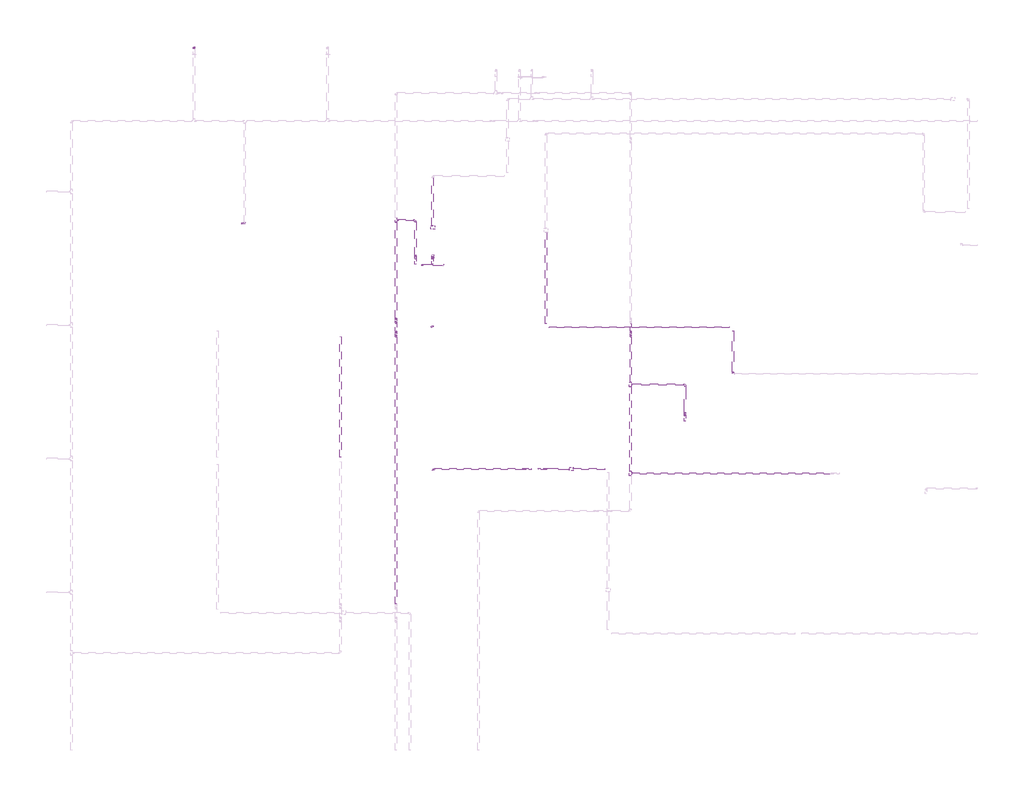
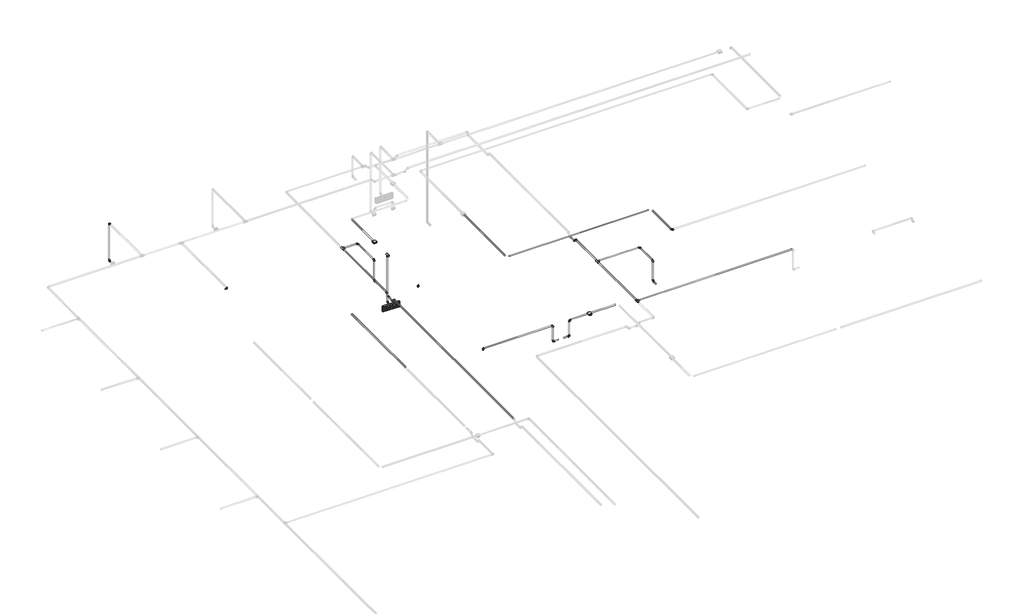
# One storey, part 38 of 40: 34 cable carrier segments, 27 cable carrier fittings, 3 alarms.
"""IFC4 building model written with IfcOpenShell, lengths in millimetres."""

from ifc_helpers import new_model, si_unit, point, frame, frame_2d, origin, place, context, project, spatial, circle_curve, trimmed, segment, composite_curve, outline, extrude, transform, mapped, element, save
from ifc_brep_helpers import plane_surface, cylinder_surface, advanced_brep
from components import alarm_4b7e8fd8, alarm_a2247946, cable_carrier_fitting_69f1a801, cable_carrier_fitting_8122f9af, cable_carrier_fitting_57fcd6e6, cable_carrier_fitting_51f7237e, cable_carrier_fitting_8fd13dfc

model = new_model("IFC4")

# Units and contexts
model_context = context("Model", 3, world=origin())
ifc_project = project(units=[si_unit("LENGTHUNIT", "METRE", prefix="MILLI")], contexts=[model_context])

# Site, building, storey
site = spatial("IfcSite", under=ifc_project)
building = spatial("IfcBuilding", under=site)
storey = spatial("IfcBuildingStorey", under=building, Name="1 этаж", Elevation=0.0)

# Alarms
placement = place(None, origin())
alarm_shape = alarm_4b7e8fd8(model_context)
element("IfcAlarm", 1, ObjectType="RBZ_Оповещатель_Световой_Рубеж_ОПОП1-R3(грань) : ОПОП 1-R3 \"Выход\"", at=placement, inside=storey, context=model_context, shape_type="MappedRepresentation", body=[
    mapped(alarm_shape, transform((10637.6759979, 18874.6370105, 2300.0), x_axis=(1.0, 0.0, 0.0), y_axis=(0.0, 0.0, 1.0), z_axis=(0.0, -1.0, 0.0))),
])
alarm_2_shape = alarm_a2247946(model_context)
element("IfcAlarm", 2, ObjectType="RBZ_ИзоляторШлейфа_Рубеж_ИЗ-1_прот.R3(плоскость) : ИЗ-1 прот.R3", at=placement, inside=storey, context=model_context, shape_type="MappedRepresentation", body=[
    mapped(alarm_2_shape, transform((10637.6759979, 19374.6370105, 3200.05), x_axis=(1.0, 0.0, 0.0), y_axis=(0.0, 1.0, 0.0), z_axis=(0.0, 0.0, 1.0))),
])
element("IfcAlarm", 3, ObjectType="RBZ_ИзоляторШлейфа_Рубеж_ИЗ-1_прот.R3(плоскость) : ИЗ-1 прот.R3", at=placement, inside=storey, context=model_context, shape_type="MappedRepresentation", body=[
    mapped(alarm_2_shape, transform((12527.6759979, 16084.6370105, 3200.05), x_axis=(1.0, 0.0, 0.0), y_axis=(0.0, 1.0, 0.0), z_axis=(0.0, 0.0, 1.0))),
])

# Cable carrier fittings
cable_carrier_fitting_shape = cable_carrier_fitting_69f1a801(model_context)
element("IfcCableCarrierFitting", 4, ObjectType="ADSK_Поворот_Минимальный размер : Неспецифицируемый", at=placement, inside=storey, context=model_context, shape_type="MappedRepresentation", body=[
    mapped(cable_carrier_fitting_shape, transform((14727.6759979, 17381.136913, 3189.2746228), x_axis=(0.0, -0.9999999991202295, 4.194688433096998e-05), y_axis=(1.0000000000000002, 0.0, 0.0), z_axis=(0.0, 4.194688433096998e-05, 0.9999999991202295))),
])
element("IfcCableCarrierFitting", 5, ObjectType="ADSK_Поворот_Минимальный размер : Неспецифицируемый", at=placement, inside=storey, context=model_context, shape_type="MappedRepresentation", body=[
    mapped(cable_carrier_fitting_shape, transform((11884.4029581, 16084.6370105, 2891.5753772), x_axis=(-1.0, 0.0, 0.0), y_axis=(0.0, 0.0, 1.0), z_axis=(0.0, 1.0, 0.0))),
])
element("IfcCableCarrierFitting", 6, ObjectType="ADSK_Поворот_Минимальный размер : Неспецифицируемый", at=placement, inside=storey, context=model_context, shape_type="MappedRepresentation", body=[
    mapped(cable_carrier_fitting_shape, transform((12171.8025693, 16084.6370105, 2891.5753772), x_axis=(1.0, 0.0, 0.0), y_axis=(0.0, 0.0, 1.0), z_axis=(0.0, -1.0, 0.0))),
])
element("IfcCableCarrierFitting", 7, ObjectType="ADSK_Поворот_Минимальный размер : Неспецифицируемый", at=placement, inside=storey, context=model_context, shape_type="MappedRepresentation", body=[
    mapped(cable_carrier_fitting_shape, transform((12171.8025693, 16084.6370105, 3189.3), x_axis=(0.0, 0.0, 1.0), y_axis=(1.0, 0.0, 0.0), z_axis=(0.0, 1.0, 0.0))),
])
element("IfcCableCarrierFitting", 8, ObjectType="ADSK_Поворот_Минимальный размер : Неспецифицируемый", at=placement, inside=storey, context=model_context, shape_type="MappedRepresentation", body=[
    mapped(cable_carrier_fitting_shape, transform((8077.6759979, 19426.2217133, 3187.0), x_axis=(1.0, 0.0, 0.0), y_axis=(0.0, 1.0, 0.0), z_axis=(0.0, 0.0, 1.0))),
])
element("IfcCableCarrierFitting", 9, ObjectType="ADSK_Поворот_Минимальный размер : Неспецифицируемый", at=placement, inside=storey, context=model_context, shape_type="MappedRepresentation", body=[
    mapped(cable_carrier_fitting_shape, transform((7387.6759979, 21828.8368161, 2488.0911237), x_axis=(0.0, 1.0, 0.0), y_axis=(0.0, 0.0, 1.0), z_axis=(1.0, 0.0, 0.0))),
])
element("IfcCableCarrierFitting", 10, ObjectType="ADSK_Поворот_Минимальный размер : Неспецифицируемый", at=placement, inside=storey, context=model_context, shape_type="MappedRepresentation", body=[
    mapped(cable_carrier_fitting_shape, transform((7387.6759979, 21828.8368161, 3187.0), x_axis=(0.0, 0.0, 1.0), y_axis=(0.0, -1.0, 0.0), z_axis=(1.0, 0.0, 0.0))),
])
element("IfcCableCarrierFitting", 11, ObjectType="ADSK_Поворот_Минимальный размер : Неспецифицируемый", at=placement, inside=storey, context=model_context, shape_type="MappedRepresentation", body=[
    mapped(cable_carrier_fitting_shape, transform((10402.6759979, 18971.8368161, 2797.4861504), x_axis=(0.0, 1.0, 0.0), y_axis=(0.0, 0.0, 1.0), z_axis=(1.0, 0.0, 0.0))),
])
element("IfcCableCarrierFitting", 12, ObjectType="ADSK_Поворот_Минимальный размер : Неспецифицируемый", at=placement, inside=storey, context=model_context, shape_type="MappedRepresentation", body=[
    mapped(cable_carrier_fitting_shape, transform((10402.6759979, 18971.8368161, 3180.0), x_axis=(0.0, 0.0, 1.0), y_axis=(0.0, 1.0, 0.0), z_axis=(-1.0, 0.0, 0.0))),
])
element("IfcCableCarrierFitting", 13, ObjectType="ADSK_Поворот_Минимальный размер : Неспецифицируемый", at=placement, inside=storey, context=model_context, shape_type="MappedRepresentation", body=[
    mapped(cable_carrier_fitting_shape, transform((10402.6759979, 19474.6370105, 3180.0), x_axis=(0.0, 1.0, 0.0), y_axis=(-1.0, 0.0, 0.0), z_axis=(0.0, 0.0, 1.0))),
])
element("IfcCableCarrierFitting", 14, ObjectType="ADSK_Поворот_Минимальный размер : Неспецифицируемый", at=placement, inside=storey, context=model_context, shape_type="MappedRepresentation", body=[
    mapped(cable_carrier_fitting_shape, transform((14077.6759979, 16831.8368161, 2797.4861504), x_axis=(0.0, 1.0, 0.0), y_axis=(0.0, 0.0, 1.0), z_axis=(1.0, 0.0, 0.0))),
])
element("IfcCableCarrierFitting", 15, ObjectType="ADSK_Поворот_Минимальный размер : Неспецифицируемый", at=placement, inside=storey, context=model_context, shape_type="MappedRepresentation", body=[
    mapped(cable_carrier_fitting_shape, transform((14077.6759979, 16831.8368161, 3180.0), x_axis=(0.0, 0.0, 1.0), y_axis=(0.0, 1.0, 0.0), z_axis=(-1.0, 0.0, 0.0))),
])
element("IfcCableCarrierFitting", 16, ObjectType="ADSK_Поворот_Минимальный размер : Неспецифицируемый", at=placement, inside=storey, context=model_context, shape_type="MappedRepresentation", body=[
    mapped(cable_carrier_fitting_shape, transform((14077.6759979, 17234.6370105, 3180.0), x_axis=(0.0, 1.0, 0.0), y_axis=(-1.0, 0.0, 0.0), z_axis=(0.0, 0.0, 1.0))),
])
element("IfcCableCarrierFitting", 17, ObjectType="ADSK_Поворот_Минимальный размер : Неспецифицируемый", at=placement, inside=storey, context=model_context, shape_type="MappedRepresentation", body=[
    mapped(cable_carrier_fitting_shape, transform((10637.6759979, 18971.8368161, 2300.0), x_axis=(0.0, 1.0, 0.0), y_axis=(0.0, 0.0, 1.0), z_axis=(1.0, 0.0, 0.0))),
])
element("IfcCableCarrierFitting", 18, ObjectType="ADSK_Поворот_Минимальный размер : Неспецифицируемый", at=placement, inside=storey, context=model_context, shape_type="MappedRepresentation", body=[
    mapped(cable_carrier_fitting_shape, transform((10642.6759979, 16084.6370105, 3189.2491248), x_axis=(-0.9999999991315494, 0.0, -4.1676149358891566e-05), y_axis=(0.0, -1.0000000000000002, 0.0), z_axis=(-4.1676149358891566e-05, 0.0, 0.9999999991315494))),
])
cable_carrier_fitting_2_shape = cable_carrier_fitting_8122f9af(model_context)
element("IfcCableCarrierFitting", 19, ObjectType="ADSK_Поворот_Минимальный размер : Неспецифицируемый", at=placement, inside=storey, context=model_context, shape_type="MappedRepresentation", body=[
    mapped(cable_carrier_fitting_2_shape, transform((10136.5137184, 17898.0647393, 3180.0), x_axis=(0.0, 1.0, 0.0), y_axis=(0.0, 0.0, -1.0), z_axis=(-1.0, 0.0, 0.0))),
])
element("IfcCableCarrierFitting", 20, ObjectType="ADSK_Поворот_Минимальный размер : Неспецифицируемый", at=placement, inside=storey, context=model_context, shape_type="MappedRepresentation", body=[
    mapped(cable_carrier_fitting_2_shape, transform((10136.5137184, 17948.0647393, 3130.0), x_axis=(0.0, 0.7071067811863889, -0.7071067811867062), y_axis=(0.0, 0.7071067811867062, 0.7071067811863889), z_axis=(1.0, 0.0, 0.0))),
])
element("IfcCableCarrierFitting", 21, ObjectType="ADSK_Поворот_Минимальный размер : Неспецифицируемый", at=placement, inside=storey, context=model_context, shape_type="MappedRepresentation", body=[
    mapped(cable_carrier_fitting_2_shape, transform((10136.5137184, 18081.2092818, 3130.0), x_axis=(0.0, 1.0, 0.0), y_axis=(0.0, 0.0, 1.0), z_axis=(1.0, 0.0, 0.0))),
])
element("IfcCableCarrierFitting", 22, ObjectType="ADSK_Поворот_Минимальный размер : Неспецифицируемый", at=placement, inside=storey, context=model_context, shape_type="MappedRepresentation", body=[
    mapped(cable_carrier_fitting_2_shape, transform((10136.5137184, 18131.2092818, 3180.0), x_axis=(0.0, 0.7071067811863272, 0.7071067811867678), y_axis=(0.0, 0.7071067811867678, -0.7071067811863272), z_axis=(-1.0, 0.0, 0.0))),
])
element("IfcCableCarrierFitting", 23, ObjectType="ADSK_Поворот_Минимальный размер : Неспецифицируемый", at=placement, inside=storey, context=model_context, shape_type="MappedRepresentation", body=[
    mapped(cable_carrier_fitting_2_shape, transform((13336.5137184, 17948.0647393, 3130.0), x_axis=(0.0, -1.0, 0.0), y_axis=(0.0, 0.0, 1.0), z_axis=(-1.0, 0.0, 0.0))),
])
element("IfcCableCarrierFitting", 24, ObjectType="ADSK_Поворот_Минимальный размер : Неспецифицируемый", at=placement, inside=storey, context=model_context, shape_type="MappedRepresentation", body=[
    mapped(cable_carrier_fitting_2_shape, transform((13336.5137184, 17898.0647393, 3180.0), x_axis=(0.0, -0.7071067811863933, 0.7071067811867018), y_axis=(0.0, -0.7071067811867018, -0.7071067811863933), z_axis=(1.0, 0.0, 0.0))),
])
cable_carrier_fitting_3_shape = cable_carrier_fitting_57fcd6e6(model_context)
element("IfcCableCarrierFitting", 25, ObjectType="ADSK_Поворот_Минимальный размер : Неспецифицируемый", at=placement, inside=storey, context=model_context, shape_type="MappedRepresentation", body=[
    mapped(cable_carrier_fitting_3_shape, transform((11884.4029581, 16084.6370105, 3189.3008752), x_axis=(0.0, 0.0, 1.0), y_axis=(-1.0, 0.0, 0.0), z_axis=(0.0, -1.0, 0.0))),
])
cable_carrier_fitting_4_shape = cable_carrier_fitting_51f7237e(model_context)
element("IfcCableCarrierFitting", 26, ObjectType="ADSK_Поворот_Минимальный размер : Неспецифицируемый", at=placement, inside=storey, context=model_context, shape_type="MappedRepresentation", body=[
    mapped(cable_carrier_fitting_4_shape, transform((10637.6759704, 18014.6370105, 3189.2999466), x_axis=(0.9999999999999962, 0.0, 8.705022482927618e-08), y_axis=(0.0, 0.9999999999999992, 4.0061227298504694e-08), z_axis=(-8.705022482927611e-08, -4.0061227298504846e-08, 0.9999999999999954))),
])
cable_carrier_fitting_5_shape = cable_carrier_fitting_8fd13dfc(model_context)
element("IfcCableCarrierFitting", 27, ObjectType="ADSK_Тройник : ПВХ", at=placement, inside=storey, context=model_context, shape_type="MappedRepresentation", body=[
    mapped(cable_carrier_fitting_5_shape, transform((10136.5137184, 19474.6370105, 3180.0), x_axis=(0.0, 1.0, 0.0), y_axis=(-1.0, 0.0, 0.0), z_axis=(0.0, 0.0, 1.0))),
])
element("IfcCableCarrierFitting", 28, ObjectType="ADSK_Тройник : ПВХ", at=placement, inside=storey, context=model_context, shape_type="MappedRepresentation", body=[
    mapped(cable_carrier_fitting_5_shape, transform((13329.9487472, 17234.6370105, 3180.0), x_axis=(0.0, 1.0, 0.0), y_axis=(-1.0, 0.0, 0.0), z_axis=(0.0, 0.0, 1.0))),
])
element("IfcCableCarrierFitting", 29, ObjectType="ADSK_Тройник : ПВХ", at=placement, inside=storey, context=model_context, shape_type="MappedRepresentation", body=[
    mapped(cable_carrier_fitting_5_shape, transform((13329.9487472, 16024.6370105, 3180.0), x_axis=(0.0, 1.0, 0.0), y_axis=(-1.0, 0.0, 0.0), z_axis=(0.0, 0.0, 1.0))),
])
element("IfcCableCarrierFitting", 30, ObjectType="ADSK_Тройник : ПВХ", at=placement, inside=storey, context=model_context, shape_type="MappedRepresentation", body=[
    mapped(cable_carrier_fitting_5_shape, transform((10637.6759901, 18971.8368161, 3189.2999849), x_axis=(2.0598476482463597e-08, 0.999999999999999, 4.006120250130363e-08), y_axis=(0.0, -4.006120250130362e-08, 0.9999999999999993), z_axis=(0.9999999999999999, -2.0598476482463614e-08, 0.0))),
])

# Cable carrier segments
element("IfcCableCarrierSegment", 31, ObjectType="Гофрированная труба", at=placement, inside=storey, context=model_context, shape_type="SweptSolid", body=[
    extrude(outline(composite_curve([segment(trimmed(circle_curve(frame_2d((0.0, -10.0)), 10.0), [point((0.0, -20.0))], [point((-10.0, -10.0))], False, "CARTESIAN"), True, "CONTINUOUS"), segment(trimmed(circle_curve(frame_2d((0.0, -10.0)), 10.0), [point((-10.0, -10.0))], [point((0.0, 0.0))], False, "CARTESIAN"), True, "CONTINUOUS"), segment(trimmed(circle_curve(frame_2d((0.0, -10.0)), 10.0), [point((0.0, 0.0))], [point((10.0, -10.0))], False, "CARTESIAN"), True, "CONTINUOUS"), segment(trimmed(circle_curve(frame_2d((0.0, -10.0)), 10.0), [point((10.0, -10.0))], [point((0.0, -20.0))], False, "CARTESIAN"), True, "CONTINUOUS")], self_intersect=False)), frame((14717.6759979, 17968.1370105, 3189.25), z_axis=(0.0, -0.9999999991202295, 4.1946884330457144e-05), x_axis=(0.0, 4.1946884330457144e-05, 0.9999999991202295)), (0.0, 0.0, 1.0), 566.0000981),
])
element("IfcCableCarrierSegment", 32, ObjectType="Гофрированная труба", at=placement, inside=storey, context=model_context, shape_type="SweptSolid", body=[
    extrude(outline(composite_curve([segment(trimmed(circle_curve(frame_2d((18014.6370105, 3189.25)), 10.0), [point((18024.6370105, 3189.25))], [point((18014.6370105, 3179.25))], False, "CARTESIAN"), True, "CONTINUOUS"), segment(trimmed(circle_curve(frame_2d((18014.6370105, 3189.25)), 10.0), [point((18014.6370105, 3179.25))], [point((18004.6370105, 3189.25))], False, "CARTESIAN"), True, "CONTINUOUS"), segment(trimmed(circle_curve(frame_2d((18014.6370105, 3189.25)), 10.0), [point((18004.6370105, 3189.25))], [point((18014.6370105, 3199.25))], False, "CARTESIAN"), True, "CONTINUOUS"), segment(trimmed(circle_curve(frame_2d((18014.6370105, 3189.25)), 10.0), [point((18014.6370105, 3199.25))], [point((18024.6370105, 3189.25))], False, "CARTESIAN"), True, "CONTINUOUS")], self_intersect=False)), frame((12228.6974646, 0.0, 0.0), z_axis=(1.0, 0.0, 0.0), x_axis=(0.0, 1.0, 0.0)), (0.0, 0.0, 1.0), 2452.4785332),
])
element("IfcCableCarrierSegment", 33, ObjectType="Гофрированная труба", at=placement, inside=storey, context=model_context, shape_type="SweptSolid", body=[
    extrude(outline(composite_curve([segment(trimmed(circle_curve(frame_2d((3189.25, 12182.1974646)), 10.0), [point((3189.25, 12172.1974646))], [point((3179.25, 12182.1974646))], False, "CARTESIAN"), True, "CONTINUOUS"), segment(trimmed(circle_curve(frame_2d((3189.25, 12182.1974646)), 10.0), [point((3179.25, 12182.1974646))], [point((3189.25, 12192.1974646))], False, "CARTESIAN"), True, "CONTINUOUS"), segment(trimmed(circle_curve(frame_2d((3189.25, 12182.1974646)), 10.0), [point((3189.25, 12192.1974646))], [point((3199.25, 12182.1974646))], False, "CARTESIAN"), True, "CONTINUOUS"), segment(trimmed(circle_curve(frame_2d((3189.25, 12182.1974646)), 10.0), [point((3199.25, 12182.1974646))], [point((3189.25, 12172.1974646))], False, "CARTESIAN"), True, "CONTINUOUS")], self_intersect=False)), frame((0.0, 18061.1370105, 0.0), z_axis=(0.0, 1.0, 0.0), x_axis=(0.0, 0.0, 1.0)), (0.0, 0.0, 1.0), 1247.5),
])
element("IfcCableCarrierSegment", 34, ObjectType="Гофрированная труба", at=placement, inside=storey, context=model_context, shape_type="SweptSolid", body=[
    extrude(outline(composite_curve([segment(trimmed(circle_curve(frame_2d((0.0, 10.0)), 10.0), [point((-10.0, 10.0))], [point((0.0, 20.0))], False, "CARTESIAN"), True, "CONTINUOUS"), segment(trimmed(circle_curve(frame_2d((0.0, 10.0)), 10.0), [point((0.0, 20.0))], [point((10.0, 10.0))], False, "CARTESIAN"), True, "CONTINUOUS"), segment(trimmed(circle_curve(frame_2d((0.0, 10.0)), 10.0), [point((10.0, 10.0))], [point((0.0, 0.0))], False, "CARTESIAN"), True, "CONTINUOUS"), segment(trimmed(circle_curve(frame_2d((0.0, 10.0)), 10.0), [point((0.0, 0.0))], [point((-10.0, 10.0))], False, "CARTESIAN"), True, "CONTINUOUS")], self_intersect=False)), frame((10663.6764146, 16084.6370105, 3179.25), z_axis=(0.9999999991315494, 0.0, 4.167614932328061e-05), x_axis=(0.0, 1.0, 0.0)), (0.0, 0.0, 1.0), 1199.7261277),
])
element("IfcCableCarrierSegment", 35, ObjectType="Гофрированная труба", at=placement, inside=storey, context=model_context, shape_type="SweptSolid", body=[
    extrude(outline(composite_curve([segment(trimmed(circle_curve(frame_2d((16084.6370105, 2891.5753772)), 10.0), [point((16094.6370105, 2891.5753772))], [point((16084.6370105, 2881.5753772))], False, "CARTESIAN"), True, "CONTINUOUS"), segment(trimmed(circle_curve(frame_2d((16084.6370105, 2891.5753772)), 10.0), [point((16084.6370105, 2881.5753772))], [point((16074.6370105, 2891.5753772))], False, "CARTESIAN"), True, "CONTINUOUS"), segment(trimmed(circle_curve(frame_2d((16084.6370105, 2891.5753772)), 10.0), [point((16074.6370105, 2891.5753772))], [point((16084.6370105, 2901.5753772))], False, "CARTESIAN"), True, "CONTINUOUS"), segment(trimmed(circle_curve(frame_2d((16084.6370105, 2891.5753772)), 10.0), [point((16084.6370105, 2901.5753772))], [point((16094.6370105, 2891.5753772))], False, "CARTESIAN"), True, "CONTINUOUS")], self_intersect=False)), frame((11905.4029581, 0.0, 0.0), z_axis=(1.0, 0.0, 0.0), x_axis=(0.0, 1.0, 0.0)), (0.0, 0.0, 1.0), 76.1998056),
])
element("IfcCableCarrierSegment", 36, ObjectType="Гофрированная труба", at=placement, inside=storey, context=model_context, shape_type="SweptSolid", body=[
    extrude(outline(composite_curve([segment(trimmed(circle_curve(frame_2d((11884.4029581, 16084.6370105)), 10.0), [point((11874.4029581, 16084.6370105))], [point((11884.4029581, 16094.6370105))], False, "CARTESIAN"), True, "CONTINUOUS"), segment(trimmed(circle_curve(frame_2d((11884.4029581, 16084.6370105)), 10.0), [point((11884.4029581, 16094.6370105))], [point((11894.4029581, 16084.6370105))], False, "CARTESIAN"), True, "CONTINUOUS"), segment(trimmed(circle_curve(frame_2d((11884.4029581, 16084.6370105)), 10.0), [point((11894.4029581, 16084.6370105))], [point((11884.4029581, 16074.6370105))], False, "CARTESIAN"), True, "CONTINUOUS"), segment(trimmed(circle_curve(frame_2d((11884.4029581, 16084.6370105)), 10.0), [point((11884.4029581, 16074.6370105))], [point((11874.4029581, 16084.6370105))], False, "CARTESIAN"), True, "CONTINUOUS")], self_intersect=False)), frame((0.0, 0.0, 2912.5753772), z_axis=(0.0, 0.0, 1.0), x_axis=(1.0, 0.0, 0.0)), (0.0, 0.0, 1.0), 255.7246645),
])
element("IfcCableCarrierSegment", 37, ObjectType="Гофрированная труба", at=placement, inside=storey, context=model_context, shape_type="SweptSolid", body=[
    extrude(outline(composite_curve([segment(trimmed(circle_curve(frame_2d((16084.6370105, 3189.3)), 10.0), [point((16094.6370105, 3189.3))], [point((16084.6370105, 3179.3))], False, "CARTESIAN"), True, "CONTINUOUS"), segment(trimmed(circle_curve(frame_2d((16084.6370105, 3189.3)), 10.0), [point((16084.6370105, 3179.3))], [point((16074.6370105, 3189.3))], False, "CARTESIAN"), True, "CONTINUOUS"), segment(trimmed(circle_curve(frame_2d((16084.6370105, 3189.3)), 10.0), [point((16074.6370105, 3189.3))], [point((16084.6370105, 3199.3))], False, "CARTESIAN"), True, "CONTINUOUS"), segment(trimmed(circle_curve(frame_2d((16084.6370105, 3189.3)), 10.0), [point((16084.6370105, 3199.3))], [point((16094.6370105, 3189.3))], False, "CARTESIAN"), True, "CONTINUOUS")], self_intersect=False)), frame((12192.8025693, 0.0, 0.0), z_axis=(1.0, 0.0, 0.0), x_axis=(0.0, 1.0, 0.0)), (0.0, 0.0, 1.0), 308.8734286),
])
element("IfcCableCarrierSegment", 38, ObjectType="Гофрированная труба", at=placement, inside=storey, context=model_context, shape_type="SweptSolid", body=[
    extrude(outline(composite_curve([segment(trimmed(circle_curve(frame_2d((16084.6370105, 2891.5753772)), 10.0), [point((16074.6370105, 2891.5753772))], [point((16084.6370105, 2901.5753772))], False, "CARTESIAN"), True, "CONTINUOUS"), segment(trimmed(circle_curve(frame_2d((16084.6370105, 2891.5753772)), 10.0), [point((16084.6370105, 2901.5753772))], [point((16094.6370105, 2891.5753772))], False, "CARTESIAN"), True, "CONTINUOUS"), segment(trimmed(circle_curve(frame_2d((16084.6370105, 2891.5753772)), 10.0), [point((16094.6370105, 2891.5753772))], [point((16084.6370105, 2881.5753772))], False, "CARTESIAN"), True, "CONTINUOUS"), segment(trimmed(circle_curve(frame_2d((16084.6370105, 2891.5753772)), 10.0), [point((16084.6370105, 2881.5753772))], [point((16074.6370105, 2891.5753772))], False, "CARTESIAN"), True, "CONTINUOUS")], self_intersect=False)), frame((12074.6027637, 0.0, 0.0), z_axis=(1.0, 0.0, 0.0), x_axis=(0.0, 1.0, 0.0)), (0.0, 0.0, 1.0), 76.1998056),
])
element("IfcCableCarrierSegment", 39, ObjectType="Гофрированная труба", at=placement, inside=storey, context=model_context, shape_type="SweptSolid", body=[
    extrude(outline(composite_curve([segment(trimmed(circle_curve(frame_2d((12171.8025693, 16084.6370105)), 10.0), [point((12161.8025693, 16084.6370105))], [point((12171.8025693, 16094.6370105))], False, "CARTESIAN"), True, "CONTINUOUS"), segment(trimmed(circle_curve(frame_2d((12171.8025693, 16084.6370105)), 10.0), [point((12171.8025693, 16094.6370105))], [point((12181.8025693, 16084.6370105))], False, "CARTESIAN"), True, "CONTINUOUS"), segment(trimmed(circle_curve(frame_2d((12171.8025693, 16084.6370105)), 10.0), [point((12181.8025693, 16084.6370105))], [point((12171.8025693, 16074.6370105))], False, "CARTESIAN"), True, "CONTINUOUS"), segment(trimmed(circle_curve(frame_2d((12171.8025693, 16084.6370105)), 10.0), [point((12171.8025693, 16074.6370105))], [point((12161.8025693, 16084.6370105))], False, "CARTESIAN"), True, "CONTINUOUS")], self_intersect=False)), frame((0.0, 0.0, 2912.5753772), z_axis=(0.0, 0.0, 1.0), x_axis=(1.0, 0.0, 0.0)), (0.0, 0.0, 1.0), 255.7246228),
])
element("IfcCableCarrierSegment", 40, ObjectType="Гофрированная труба", at=placement, inside=storey, context=model_context, shape_type="SweptSolid", body=[
    extrude(outline(composite_curve([segment(trimmed(circle_curve(frame_2d((16084.6370105, 3189.3)), 10.0), [point((16094.6370105, 3189.3))], [point((16084.6370105, 3179.3))], False, "CARTESIAN"), True, "CONTINUOUS"), segment(trimmed(circle_curve(frame_2d((16084.6370105, 3189.3)), 10.0), [point((16084.6370105, 3179.3))], [point((16074.6370105, 3189.3))], False, "CARTESIAN"), True, "CONTINUOUS"), segment(trimmed(circle_curve(frame_2d((16084.6370105, 3189.3)), 10.0), [point((16074.6370105, 3189.3))], [point((16084.6370105, 3199.3))], False, "CARTESIAN"), True, "CONTINUOUS"), segment(trimmed(circle_curve(frame_2d((16084.6370105, 3189.3)), 10.0), [point((16084.6370105, 3199.3))], [point((16094.6370105, 3189.3))], False, "CARTESIAN"), True, "CONTINUOUS")], self_intersect=False)), frame((12553.6759979, 0.0, 0.0), z_axis=(1.0, 0.0, 0.0), x_axis=(0.0, 1.0, 0.0)), (0.0, 0.0, 1.0), 427.5),
])
element("IfcCableCarrierSegment", 41, ObjectType="Гофрированная труба", at=placement, inside=storey, context=model_context, shape_type="SweptSolid", body=[
    extrude(outline(composite_curve([segment(trimmed(circle_curve(frame_2d((0.0, 10.0)), 10.0), [point((0.0, 20.0))], [point((10.0, 10.0))], False, "CARTESIAN"), True, "CONTINUOUS"), segment(trimmed(circle_curve(frame_2d((0.0, 10.0)), 10.0), [point((10.0, 10.0))], [point((0.0, 0.0))], False, "CARTESIAN"), True, "CONTINUOUS"), segment(trimmed(circle_curve(frame_2d((0.0, 10.0)), 10.0), [point((0.0, 0.0))], [point((-10.0, 10.0))], False, "CARTESIAN"), True, "CONTINUOUS"), segment(trimmed(circle_curve(frame_2d((0.0, 10.0)), 10.0), [point((-10.0, 10.0))], [point((0.0, 20.0))], False, "CARTESIAN"), True, "CONTINUOUS")], self_intersect=False)), frame((10627.6759979, 19400.6370098, 3189.3), z_axis=(-6.90443661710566e-08, 0.9999999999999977, 0.0), x_axis=(0.0, 0.0, 1.0)), (0.0, 0.0, 1.0), 652.9999988),
])
element("IfcCableCarrierSegment", 42, ObjectType="Гофрированная труба", at=placement, inside=storey, context=model_context, shape_type="SweptSolid", body=[
    extrude(outline(composite_curve([segment(trimmed(circle_curve(frame_2d((3187.0, 9382.6759979)), 10.0), [point((3187.0, 9392.6759979))], [point((3197.0, 9382.6759979))], False, "CARTESIAN"), True, "CONTINUOUS"), segment(trimmed(circle_curve(frame_2d((3187.0, 9382.6759979)), 10.0), [point((3197.0, 9382.6759979))], [point((3187.0, 9372.6759979))], False, "CARTESIAN"), True, "CONTINUOUS"), segment(trimmed(circle_curve(frame_2d((3187.0, 9382.6759979)), 10.0), [point((3187.0, 9372.6759979))], [point((3177.0, 9382.6759979))], False, "CARTESIAN"), True, "CONTINUOUS"), segment(trimmed(circle_curve(frame_2d((3187.0, 9382.6759979)), 10.0), [point((3177.0, 9382.6759979))], [point((3187.0, 9392.6759979))], False, "CARTESIAN"), True, "CONTINUOUS")], self_intersect=False)), frame((0.0, 16247.0987933, 0.0), z_axis=(0.0, 1.0, 0.0), x_axis=(0.0, 0.0, 1.0)), (0.0, 0.0, 1.0), 1635.0382172),
])
element("IfcCableCarrierSegment", 43, ObjectType="Гофрированная труба", at=placement, inside=storey, context=model_context, shape_type="SweptSolid", body=[
    extrude(outline(composite_curve([segment(trimmed(circle_curve(frame_2d((19426.2217133, 3187.0)), 10.0), [point((19416.2217133, 3187.0))], [point((19426.2217133, 3197.0))], False, "CARTESIAN"), True, "CONTINUOUS"), segment(trimmed(circle_curve(frame_2d((19426.2217133, 3187.0)), 10.0), [point((19426.2217133, 3197.0))], [point((19436.2217133, 3187.0))], False, "CARTESIAN"), True, "CONTINUOUS"), segment(trimmed(circle_curve(frame_2d((19426.2217133, 3187.0)), 10.0), [point((19436.2217133, 3187.0))], [point((19426.2217133, 3177.0))], False, "CARTESIAN"), True, "CONTINUOUS"), segment(trimmed(circle_curve(frame_2d((19426.2217133, 3187.0)), 10.0), [point((19426.2217133, 3177.0))], [point((19416.2217133, 3187.0))], False, "CARTESIAN"), True, "CONTINUOUS")], self_intersect=False)), frame((8040.1377807, 0.0, 0.0), z_axis=(1.0, 0.0, 0.0), x_axis=(0.0, 1.0, 0.0)), (0.0, 0.0, 1.0), 16.5382172),
])
element("IfcCableCarrierSegment", 44, ObjectType="Гофрированная труба", at=placement, inside=storey, context=model_context, shape_type="SweptSolid", body=[
    extrude(outline(composite_curve([segment(trimmed(circle_curve(frame_2d((7387.6759979, 21828.8368161)), 10.0), [point((7377.6759979, 21828.8368161))], [point((7387.6759979, 21838.8368161))], False, "CARTESIAN"), True, "CONTINUOUS"), segment(trimmed(circle_curve(frame_2d((7387.6759979, 21828.8368161)), 10.0), [point((7387.6759979, 21838.8368161))], [point((7397.6759979, 21828.8368161))], False, "CARTESIAN"), True, "CONTINUOUS"), segment(trimmed(circle_curve(frame_2d((7387.6759979, 21828.8368161)), 10.0), [point((7397.6759979, 21828.8368161))], [point((7387.6759979, 21818.8368161))], False, "CARTESIAN"), True, "CONTINUOUS"), segment(trimmed(circle_curve(frame_2d((7387.6759979, 21828.8368161)), 10.0), [point((7387.6759979, 21818.8368161))], [point((7377.6759979, 21828.8368161))], False, "CARTESIAN"), True, "CONTINUOUS")], self_intersect=False)), frame((0.0, 0.0, 2509.0911237), z_axis=(0.0, 0.0, 1.0), x_axis=(1.0, 0.0, 0.0)), (0.0, 0.0, 1.0), 656.9088763),
])
element("IfcCableCarrierSegment", 45, ObjectType="Гофрированная труба", at=placement, inside=storey, context=model_context, shape_type="SweptSolid", body=[
    extrude(outline(composite_curve([segment(trimmed(circle_curve(frame_2d((3180.0, 10402.6759979)), 10.0), [point((3180.0, 10412.6759979))], [point((3190.0, 10402.6759979))], False, "CARTESIAN"), True, "CONTINUOUS"), segment(trimmed(circle_curve(frame_2d((3180.0, 10402.6759979)), 10.0), [point((3190.0, 10402.6759979))], [point((3180.0, 10392.6759979))], False, "CARTESIAN"), True, "CONTINUOUS"), segment(trimmed(circle_curve(frame_2d((3180.0, 10402.6759979)), 10.0), [point((3180.0, 10392.6759979))], [point((3170.0, 10402.6759979))], False, "CARTESIAN"), True, "CONTINUOUS"), segment(trimmed(circle_curve(frame_2d((3180.0, 10402.6759979)), 10.0), [point((3170.0, 10402.6759979))], [point((3180.0, 10412.6759979))], False, "CARTESIAN"), True, "CONTINUOUS")], self_intersect=False)), frame((0.0, 18992.8368161, 0.0), z_axis=(0.0, 1.0, 0.0), x_axis=(0.0, 0.0, 1.0)), (0.0, 0.0, 1.0), 460.8001944),
])
element("IfcCableCarrierSegment", 46, ObjectType="Гофрированная труба", at=placement, inside=storey, context=model_context, shape_type="SweptSolid", body=[
    extrude(outline(composite_curve([segment(trimmed(circle_curve(frame_2d((2797.4861504, 10402.6759979)), 10.0), [point((2797.4861504, 10412.6759979))], [point((2807.4861504, 10402.6759979))], False, "CARTESIAN"), True, "CONTINUOUS"), segment(trimmed(circle_curve(frame_2d((2797.4861504, 10402.6759979)), 10.0), [point((2807.4861504, 10402.6759979))], [point((2797.4861504, 10392.6759979))], False, "CARTESIAN"), True, "CONTINUOUS"), segment(trimmed(circle_curve(frame_2d((2797.4861504, 10402.6759979)), 10.0), [point((2797.4861504, 10392.6759979))], [point((2787.4861504, 10402.6759979))], False, "CARTESIAN"), True, "CONTINUOUS"), segment(trimmed(circle_curve(frame_2d((2797.4861504, 10402.6759979)), 10.0), [point((2787.4861504, 10402.6759979))], [point((2797.4861504, 10412.6759979))], False, "CARTESIAN"), True, "CONTINUOUS")], self_intersect=False)), frame((0.0, 18874.6370105, 0.0), z_axis=(0.0, 1.0, 0.0), x_axis=(0.0, 0.0, 1.0)), (0.0, 0.0, 1.0), 76.1998056),
])
element("IfcCableCarrierSegment", 47, ObjectType="Гофрированная труба", at=placement, inside=storey, context=model_context, shape_type="SweptSolid", body=[
    extrude(outline(composite_curve([segment(trimmed(circle_curve(frame_2d((10402.6759979, 18971.8368161)), 10.0), [point((10392.6759979, 18971.8368161))], [point((10402.6759979, 18981.8368161))], False, "CARTESIAN"), True, "CONTINUOUS"), segment(trimmed(circle_curve(frame_2d((10402.6759979, 18971.8368161)), 10.0), [point((10402.6759979, 18981.8368161))], [point((10412.6759979, 18971.8368161))], False, "CARTESIAN"), True, "CONTINUOUS"), segment(trimmed(circle_curve(frame_2d((10402.6759979, 18971.8368161)), 10.0), [point((10412.6759979, 18971.8368161))], [point((10402.6759979, 18961.8368161))], False, "CARTESIAN"), True, "CONTINUOUS"), segment(trimmed(circle_curve(frame_2d((10402.6759979, 18971.8368161)), 10.0), [point((10402.6759979, 18961.8368161))], [point((10392.6759979, 18971.8368161))], False, "CARTESIAN"), True, "CONTINUOUS")], self_intersect=False)), frame((0.0, 0.0, 2818.4861504), z_axis=(0.0, 0.0, 1.0), x_axis=(1.0, 0.0, 0.0)), (0.0, 0.0, 1.0), 340.5138496),
])
element("IfcCableCarrierSegment", 48, ObjectType="Гофрированная труба", at=placement, inside=storey, context=model_context, shape_type="SweptSolid", body=[
    extrude(outline(composite_curve([segment(trimmed(circle_curve(frame_2d((19474.6370105, 3180.0)), 10.0), [point((19464.6370105, 3180.0))], [point((19474.6370105, 3190.0))], False, "CARTESIAN"), True, "CONTINUOUS"), segment(trimmed(circle_curve(frame_2d((19474.6370105, 3180.0)), 10.0), [point((19474.6370105, 3190.0))], [point((19484.6370105, 3180.0))], False, "CARTESIAN"), True, "CONTINUOUS"), segment(trimmed(circle_curve(frame_2d((19474.6370105, 3180.0)), 10.0), [point((19484.6370105, 3180.0))], [point((19474.6370105, 3170.0))], False, "CARTESIAN"), True, "CONTINUOUS"), segment(trimmed(circle_curve(frame_2d((19474.6370105, 3180.0)), 10.0), [point((19474.6370105, 3170.0))], [point((19464.6370105, 3180.0))], False, "CARTESIAN"), True, "CONTINUOUS")], self_intersect=False)), frame((10166.5137184, 0.0, 0.0), z_axis=(1.0, 0.0, 0.0), x_axis=(0.0, 1.0, 0.0)), (0.0, 0.0, 1.0), 215.1622795),
])
element("IfcCableCarrierSegment", 49, ObjectType="Гофрированная труба", at=placement, inside=storey, context=model_context, shape_type="SweptSolid", body=[
    extrude(outline(composite_curve([segment(trimmed(circle_curve(frame_2d((3180.0, 14077.6759979)), 10.0), [point((3180.0, 14087.6759979))], [point((3190.0, 14077.6759979))], False, "CARTESIAN"), True, "CONTINUOUS"), segment(trimmed(circle_curve(frame_2d((3180.0, 14077.6759979)), 10.0), [point((3190.0, 14077.6759979))], [point((3180.0, 14067.6759979))], False, "CARTESIAN"), True, "CONTINUOUS"), segment(trimmed(circle_curve(frame_2d((3180.0, 14077.6759979)), 10.0), [point((3180.0, 14067.6759979))], [point((3170.0, 14077.6759979))], False, "CARTESIAN"), True, "CONTINUOUS"), segment(trimmed(circle_curve(frame_2d((3180.0, 14077.6759979)), 10.0), [point((3170.0, 14077.6759979))], [point((3180.0, 14087.6759979))], False, "CARTESIAN"), True, "CONTINUOUS")], self_intersect=False)), frame((0.0, 16852.8368161, 0.0), z_axis=(0.0, 1.0, 0.0), x_axis=(0.0, 0.0, 1.0)), (0.0, 0.0, 1.0), 360.8001944),
])
element("IfcCableCarrierSegment", 50, ObjectType="Гофрированная труба", at=placement, inside=storey, context=model_context, shape_type="SweptSolid", body=[
    extrude(outline(composite_curve([segment(trimmed(circle_curve(frame_2d((2797.4861504, 14077.6759979)), 10.0), [point((2797.4861504, 14087.6759979))], [point((2807.4861504, 14077.6759979))], False, "CARTESIAN"), True, "CONTINUOUS"), segment(trimmed(circle_curve(frame_2d((2797.4861504, 14077.6759979)), 10.0), [point((2807.4861504, 14077.6759979))], [point((2797.4861504, 14067.6759979))], False, "CARTESIAN"), True, "CONTINUOUS"), segment(trimmed(circle_curve(frame_2d((2797.4861504, 14077.6759979)), 10.0), [point((2797.4861504, 14067.6759979))], [point((2787.4861504, 14077.6759979))], False, "CARTESIAN"), True, "CONTINUOUS"), segment(trimmed(circle_curve(frame_2d((2797.4861504, 14077.6759979)), 10.0), [point((2787.4861504, 14077.6759979))], [point((2797.4861504, 14087.6759979))], False, "CARTESIAN"), True, "CONTINUOUS")], self_intersect=False)), frame((0.0, 16734.6370105, 0.0), z_axis=(0.0, 1.0, 0.0), x_axis=(0.0, 0.0, 1.0)), (0.0, 0.0, 1.0), 76.1998056),
])
element("IfcCableCarrierSegment", 51, ObjectType="Гофрированная труба", at=placement, inside=storey, context=model_context, shape_type="SweptSolid", body=[
    extrude(outline(composite_curve([segment(trimmed(circle_curve(frame_2d((14077.6759979, 16831.8368161)), 10.0), [point((14067.6759979, 16831.8368161))], [point((14077.6759979, 16841.8368161))], False, "CARTESIAN"), True, "CONTINUOUS"), segment(trimmed(circle_curve(frame_2d((14077.6759979, 16831.8368161)), 10.0), [point((14077.6759979, 16841.8368161))], [point((14087.6759979, 16831.8368161))], False, "CARTESIAN"), True, "CONTINUOUS"), segment(trimmed(circle_curve(frame_2d((14077.6759979, 16831.8368161)), 10.0), [point((14087.6759979, 16831.8368161))], [point((14077.6759979, 16821.8368161))], False, "CARTESIAN"), True, "CONTINUOUS"), segment(trimmed(circle_curve(frame_2d((14077.6759979, 16831.8368161)), 10.0), [point((14077.6759979, 16821.8368161))], [point((14067.6759979, 16831.8368161))], False, "CARTESIAN"), True, "CONTINUOUS")], self_intersect=False)), frame((0.0, 0.0, 2818.4861504), z_axis=(0.0, 0.0, 1.0), x_axis=(1.0, 0.0, 0.0)), (0.0, 0.0, 1.0), 340.5138496),
])
element("IfcCableCarrierSegment", 52, ObjectType="Гофрированная труба", at=placement, inside=storey, context=model_context, shape_type="SweptSolid", body=[
    extrude(outline(composite_curve([segment(trimmed(circle_curve(frame_2d((17234.6370105, 3180.0)), 10.0), [point((17224.6370105, 3180.0))], [point((17234.6370105, 3190.0))], False, "CARTESIAN"), True, "CONTINUOUS"), segment(trimmed(circle_curve(frame_2d((17234.6370105, 3180.0)), 10.0), [point((17234.6370105, 3190.0))], [point((17244.6370105, 3180.0))], False, "CARTESIAN"), True, "CONTINUOUS"), segment(trimmed(circle_curve(frame_2d((17234.6370105, 3180.0)), 10.0), [point((17244.6370105, 3180.0))], [point((17234.6370105, 3170.0))], False, "CARTESIAN"), True, "CONTINUOUS"), segment(trimmed(circle_curve(frame_2d((17234.6370105, 3180.0)), 10.0), [point((17234.6370105, 3170.0))], [point((17224.6370105, 3180.0))], False, "CARTESIAN"), True, "CONTINUOUS")], self_intersect=False)), frame((13359.9487472, 0.0, 0.0), z_axis=(1.0, 0.0, 0.0), x_axis=(0.0, 1.0, 0.0)), (0.0, 0.0, 1.0), 696.7272507),
])
element("IfcCableCarrierSegment", 53, ObjectType="Гофрированная труба", at=placement, inside=storey, context=model_context, shape_type="SweptSolid", body=[
    extrude(outline(composite_curve([segment(trimmed(circle_curve(frame_2d((16024.6370105, 3180.0)), 10.0), [point((16014.6370105, 3180.0))], [point((16024.6370105, 3190.0))], False, "CARTESIAN"), True, "CONTINUOUS"), segment(trimmed(circle_curve(frame_2d((16024.6370105, 3180.0)), 10.0), [point((16024.6370105, 3190.0))], [point((16034.6370105, 3180.0))], False, "CARTESIAN"), True, "CONTINUOUS"), segment(trimmed(circle_curve(frame_2d((16024.6370105, 3180.0)), 10.0), [point((16034.6370105, 3180.0))], [point((16024.6370105, 3170.0))], False, "CARTESIAN"), True, "CONTINUOUS"), segment(trimmed(circle_curve(frame_2d((16024.6370105, 3180.0)), 10.0), [point((16024.6370105, 3170.0))], [point((16014.6370105, 3180.0))], False, "CARTESIAN"), True, "CONTINUOUS")], self_intersect=False)), frame((13359.9487472, 0.0, 0.0), z_axis=(1.0, 0.0, 0.0), x_axis=(0.0, 1.0, 0.0)), (0.0, 0.0, 1.0), 2699.5274451),
])
element("IfcCableCarrierSegment", 54, ObjectType="Гофрированная труба", at=placement, inside=storey, context=model_context, shape_type="SweptSolid", body=[
    extrude(outline(composite_curve([segment(trimmed(circle_curve(frame_2d((3180.0, 13329.9487472)), 10.0), [point((3180.0, 13319.9487472))], [point((3170.0, 13329.9487472))], False, "CARTESIAN"), True, "CONTINUOUS"), segment(trimmed(circle_curve(frame_2d((3180.0, 13329.9487472)), 10.0), [point((3170.0, 13329.9487472))], [point((3180.0, 13339.9487472))], False, "CARTESIAN"), True, "CONTINUOUS"), segment(trimmed(circle_curve(frame_2d((3180.0, 13329.9487472)), 10.0), [point((3180.0, 13339.9487472))], [point((3190.0, 13329.9487472))], False, "CARTESIAN"), True, "CONTINUOUS"), segment(trimmed(circle_curve(frame_2d((3180.0, 13329.9487472)), 10.0), [point((3190.0, 13329.9487472))], [point((3180.0, 13319.9487472))], False, "CARTESIAN"), True, "CONTINUOUS")], self_intersect=False)), frame((0.0, 16054.6370105, 0.0), z_axis=(0.0, 1.0, 0.0), x_axis=(0.0, 0.0, 1.0)), (0.0, 0.0, 1.0), 1150.0),
])
element("IfcCableCarrierSegment", 55, ObjectType="Гофрированная труба", at=placement, inside=storey, context=model_context, shape_type="SweptSolid", body=[
    extrude(outline(composite_curve([segment(trimmed(circle_curve(frame_2d((3130.0, 10136.5137184)), 10.0), [point((3130.0, 10146.5137184))], [point((3140.0, 10136.5137184))], False, "CARTESIAN"), True, "CONTINUOUS"), segment(trimmed(circle_curve(frame_2d((3130.0, 10136.5137184)), 10.0), [point((3140.0, 10136.5137184))], [point((3130.0, 10126.5137184))], False, "CARTESIAN"), True, "CONTINUOUS"), segment(trimmed(circle_curve(frame_2d((3130.0, 10136.5137184)), 10.0), [point((3130.0, 10126.5137184))], [point((3120.0, 10136.5137184))], False, "CARTESIAN"), True, "CONTINUOUS"), segment(trimmed(circle_curve(frame_2d((3130.0, 10136.5137184)), 10.0), [point((3120.0, 10136.5137184))], [point((3130.0, 10146.5137184))], False, "CARTESIAN"), True, "CONTINUOUS")], self_intersect=False)), frame((0.0, 17957.3490105, 0.0), z_axis=(0.0, 1.0, 0.0), x_axis=(0.0, 0.0, 1.0)), (0.0, 0.0, 1.0), 114.576),
])
element("IfcCableCarrierSegment", 56, ObjectType="Гофрированная труба", at=placement, inside=storey, context=model_context, shape_type="SweptSolid", body=[
    extrude(outline(composite_curve([segment(trimmed(circle_curve(frame_2d((3180.0, 10136.5137184)), 10.0), [point((3180.0, 10146.5137184))], [point((3190.0, 10136.5137184))], False, "CARTESIAN"), True, "CONTINUOUS"), segment(trimmed(circle_curve(frame_2d((3180.0, 10136.5137184)), 10.0), [point((3190.0, 10136.5137184))], [point((3180.0, 10126.5137184))], False, "CARTESIAN"), True, "CONTINUOUS"), segment(trimmed(circle_curve(frame_2d((3180.0, 10136.5137184)), 10.0), [point((3180.0, 10126.5137184))], [point((3170.0, 10136.5137184))], False, "CARTESIAN"), True, "CONTINUOUS"), segment(trimmed(circle_curve(frame_2d((3180.0, 10136.5137184)), 10.0), [point((3170.0, 10136.5137184))], [point((3180.0, 10146.5137184))], False, "CARTESIAN"), True, "CONTINUOUS")], self_intersect=False)), frame((0.0, 14250.493553, 0.0), z_axis=(0.0, 1.0, 0.0), x_axis=(0.0, 0.0, 1.0)), (0.0, 0.0, 1.0), 3638.286915),
])
element("IfcCableCarrierSegment", 57, ObjectType="Гофрированная труба", at=placement, inside=storey, context=model_context, shape_type="SweptSolid", body=[
    extrude(outline(composite_curve([segment(trimmed(circle_curve(frame_2d((0.0, -10.0)), 10.0), [point((10.0, -10.0))], [point((0.0, -20.0))], False, "CARTESIAN"), True, "CONTINUOUS"), segment(trimmed(circle_curve(frame_2d((0.0, -10.0)), 10.0), [point((0.0, -20.0))], [point((-10.0, -10.0))], False, "CARTESIAN"), True, "CONTINUOUS"), segment(trimmed(circle_curve(frame_2d((0.0, -10.0)), 10.0), [point((-10.0, -10.0))], [point((0.0, 0.0))], False, "CARTESIAN"), True, "CONTINUOUS"), segment(trimmed(circle_curve(frame_2d((0.0, -10.0)), 10.0), [point((0.0, 0.0))], [point((10.0, -10.0))], False, "CARTESIAN"), True, "CONTINUOUS")], self_intersect=False)), frame((10136.5137184, 17948.5708359, 3143.636039), z_axis=(0.0, -0.7071067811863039, 0.7071067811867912), x_axis=(1.0, 0.0, 0.0)), (0.0, 0.0, 1.0), 52.1421356),
])
element("IfcCableCarrierSegment", 58, ObjectType="Гофрированная труба", at=placement, inside=storey, context=model_context, shape_type="SweptSolid", body=[
    extrude(outline(composite_curve([segment(trimmed(circle_curve(frame_2d((3180.0, 10136.5137184)), 10.0), [point((3180.0, 10146.5137184))], [point((3190.0, 10136.5137184))], False, "CARTESIAN"), True, "CONTINUOUS"), segment(trimmed(circle_curve(frame_2d((3180.0, 10136.5137184)), 10.0), [point((3190.0, 10136.5137184))], [point((3180.0, 10126.5137184))], False, "CARTESIAN"), True, "CONTINUOUS"), segment(trimmed(circle_curve(frame_2d((3180.0, 10136.5137184)), 10.0), [point((3180.0, 10126.5137184))], [point((3170.0, 10136.5137184))], False, "CARTESIAN"), True, "CONTINUOUS"), segment(trimmed(circle_curve(frame_2d((3180.0, 10136.5137184)), 10.0), [point((3170.0, 10136.5137184))], [point((3180.0, 10146.5137184))], False, "CARTESIAN"), True, "CONTINUOUS")], self_intersect=False)), frame((0.0, 18140.493553, 0.0), z_axis=(0.0, 1.0, 0.0), x_axis=(0.0, 0.0, 1.0)), (0.0, 0.0, 1.0), 1304.1434575),
])
element("IfcCableCarrierSegment", 59, ObjectType="Гофрированная труба", at=placement, inside=storey, context=model_context, shape_type="SweptSolid", body=[
    extrude(outline(composite_curve([segment(trimmed(circle_curve(frame_2d((0.0, 10.0)), 10.0), [point((10.0, 10.0))], [point((0.0, 0.0))], False, "CARTESIAN"), True, "CONTINUOUS"), segment(trimmed(circle_curve(frame_2d((0.0, 10.0)), 10.0), [point((0.0, 0.0))], [point((-10.0, 10.0))], False, "CARTESIAN"), True, "CONTINUOUS"), segment(trimmed(circle_curve(frame_2d((0.0, 10.0)), 10.0), [point((-10.0, 10.0))], [point((0.0, 20.0))], False, "CARTESIAN"), True, "CONTINUOUS"), segment(trimmed(circle_curve(frame_2d((0.0, 10.0)), 10.0), [point((0.0, 20.0))], [point((10.0, 10.0))], False, "CARTESIAN"), True, "CONTINUOUS")], self_intersect=False)), frame((10136.5137184, 18080.7031851, 3143.636039), z_axis=(0.0, 0.7071067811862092, 0.707106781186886), x_axis=(1.0, 0.0, 0.0)), (0.0, 0.0, 1.0), 52.1421356),
])
element("IfcCableCarrierSegment", 60, ObjectType="Гофрированная труба", at=placement, inside=storey, context=model_context, shape_type="SweptSolid", body=[
    extrude(outline(composite_curve([segment(trimmed(circle_curve(frame_2d((3130.0, 13336.5137184)), 10.0), [point((3130.0, 13326.5137184))], [point((3120.0, 13336.5137184))], False, "CARTESIAN"), True, "CONTINUOUS"), segment(trimmed(circle_curve(frame_2d((3130.0, 13336.5137184)), 10.0), [point((3120.0, 13336.5137184))], [point((3130.0, 13346.5137184))], False, "CARTESIAN"), True, "CONTINUOUS"), segment(trimmed(circle_curve(frame_2d((3130.0, 13336.5137184)), 10.0), [point((3130.0, 13346.5137184))], [point((3140.0, 13336.5137184))], False, "CARTESIAN"), True, "CONTINUOUS"), segment(trimmed(circle_curve(frame_2d((3130.0, 13336.5137184)), 10.0), [point((3140.0, 13336.5137184))], [point((3130.0, 13326.5137184))], False, "CARTESIAN"), True, "CONTINUOUS")], self_intersect=False)), frame((0.0, 17957.3490105, 0.0), z_axis=(0.0, 1.0, 0.0), x_axis=(0.0, 0.0, 1.0)), (0.0, 0.0, 1.0), 114.576),
])
element("IfcCableCarrierSegment", 61, ObjectType="Гофрированная труба", at=placement, inside=storey, context=model_context, shape_type="SweptSolid", body=[
    extrude(outline(composite_curve([segment(trimmed(circle_curve(frame_2d((3180.0, 13336.5137184)), 10.0), [point((3180.0, 13326.5137184))], [point((3170.0, 13336.5137184))], False, "CARTESIAN"), True, "CONTINUOUS"), segment(trimmed(circle_curve(frame_2d((3180.0, 13336.5137184)), 10.0), [point((3170.0, 13336.5137184))], [point((3180.0, 13346.5137184))], False, "CARTESIAN"), True, "CONTINUOUS"), segment(trimmed(circle_curve(frame_2d((3180.0, 13336.5137184)), 10.0), [point((3180.0, 13346.5137184))], [point((3190.0, 13336.5137184))], False, "CARTESIAN"), True, "CONTINUOUS"), segment(trimmed(circle_curve(frame_2d((3180.0, 13336.5137184)), 10.0), [point((3190.0, 13336.5137184))], [point((3180.0, 13326.5137184))], False, "CARTESIAN"), True, "CONTINUOUS")], self_intersect=False)), frame((0.0, 17264.6370105, 0.0), z_axis=(0.0, 1.0, 0.0), x_axis=(0.0, 0.0, 1.0)), (0.0, 0.0, 1.0), 624.1434575),
])
element("IfcCableCarrierSegment", 62, ObjectType="Гофрированная труба", at=placement, inside=storey, context=model_context, shape_type="SweptSolid", body=[
    extrude(outline(composite_curve([segment(trimmed(circle_curve(frame_2d((0.0, 10.0000001)), 10.0), [point((-10.0, 10.0000001))], [point((0.0, 20.0))], False, "CARTESIAN"), True, "CONTINUOUS"), segment(trimmed(circle_curve(frame_2d((0.0, 10.0000001)), 10.0), [point((0.0, 20.0))], [point((10.0, 10.0000001))], False, "CARTESIAN"), True, "CONTINUOUS"), segment(trimmed(circle_curve(frame_2d((0.0, 10.0000001)), 10.0), [point((10.0, 10.0000001))], [point((0.0, 0.0))], False, "CARTESIAN"), True, "CONTINUOUS"), segment(trimmed(circle_curve(frame_2d((0.0, 10.0000001)), 10.0), [point((0.0, 0.0))], [point((-10.0, 10.0000001))], False, "CARTESIAN"), True, "CONTINUOUS")], self_intersect=False)), frame((13336.5137184, 17934.4287003, 3129.4939033), z_axis=(0.0, -0.7071067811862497, 0.7071067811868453), x_axis=(1.0, 0.0, 0.0)), (0.0, 0.0, 1.0), 52.1421356),
])
element("IfcCableCarrierSegment", 63, ObjectType="Гофрированная труба", at=placement, inside=storey, context=model_context, shape_type="SweptSolid", body=[
    extrude(outline(composite_curve([segment(trimmed(circle_curve(frame_2d((2300.0, 10637.6759979)), 10.0), [point((2300.0, 10647.6759979))], [point((2310.0, 10637.6759979))], False, "CARTESIAN"), True, "CONTINUOUS"), segment(trimmed(circle_curve(frame_2d((2300.0, 10637.6759979)), 10.0), [point((2310.0, 10637.6759979))], [point((2300.0, 10627.6759979))], False, "CARTESIAN"), True, "CONTINUOUS"), segment(trimmed(circle_curve(frame_2d((2300.0, 10637.6759979)), 10.0), [point((2300.0, 10627.6759979))], [point((2290.0, 10637.6759979))], False, "CARTESIAN"), True, "CONTINUOUS"), segment(trimmed(circle_curve(frame_2d((2300.0, 10637.6759979)), 10.0), [point((2290.0, 10637.6759979))], [point((2300.0, 10647.6759979))], False, "CARTESIAN"), True, "CONTINUOUS")], self_intersect=False)), frame((0.0, 18874.6370105, 0.0), z_axis=(0.0, 1.0, 0.0), x_axis=(0.0, 0.0, 1.0)), (0.0, 0.0, 1.0), 76.1998056),
])
element("IfcCableCarrierSegment", 64, ObjectType="Гофрированная труба", at=placement, inside=storey, context=model_context, shape_type="AdvancedBrep", body=[
    advanced_brep(
    [(10647.6759901, 18971.8368173, 3159.299985), (10637.6759901, 18981.8368173, 3159.2999849), (10627.6759901, 18971.8368173, 3159.2999848), (10637.6759901, 18961.8368173, 3159.2999849), (10647.6759979, 18971.8368161, 2321.0000001), (10637.6759979, 18961.8368161, 2321.0), (10627.6759979, 18971.8368161, 2320.9999999), (10637.6759979, 18981.8368161, 2321.0)],
    [
        (0, 1, circle_curve(frame((10637.6759901, 18971.8368173, 3159.299985), z_axis=(0.0, 0.0, 1.0), x_axis=(1.0, 0.0, 0.0)), 10.0)),
        (1, 2, circle_curve(frame((10637.6759901, 18971.8368173, 3159.2999849), z_axis=(0.0, 0.0, 1.0), x_axis=(1.0, 0.0, 0.0)), 10.0)),
        (2, 3, circle_curve(frame((10637.6759901, 18971.8368173, 3159.2999848), z_axis=(0.0, 0.0, 1.0), x_axis=(1.0, 0.0, 0.0)), 10.0)),
        (3, 0, circle_curve(frame((10637.6759901, 18971.8368173, 3159.2999849), z_axis=(0.0, 0.0, 1.0), x_axis=(1.0, 0.0, 0.0)), 10.0)),
        (4, 5, circle_curve(frame((10637.6759901, 18971.8368173, 2321.0000001), z_axis=(0.0, 0.0, -1.0), x_axis=(1.0, 0.0, 0.0)), 10.0000078)),
        (5, 6, circle_curve(frame((10637.6759901, 18971.8368173, 2321.0), z_axis=(0.0, 0.0, -1.0), x_axis=(1.0, 0.0, 0.0)), 10.0000012)),
        (6, 7, circle_curve(frame((10637.6759901, 18971.8368173, 2320.9999999), z_axis=(0.0, 0.0, -1.0), x_axis=(1.0, 0.0, 0.0)), 9.9999922)),
        (7, 4, circle_curve(frame((10637.6759901, 18971.8368173, 2321.0), z_axis=(0.0, 0.0, -1.0), x_axis=(1.0, 0.0, 0.0)), 9.9999988)),
        (0, 4),
        (7, 1),
        (6, 2),
        (5, 3),
    ],
    [
        plane_surface(frame((10637.6759901, 18961.8368173, 3159.2999849), z_axis=(-9.258629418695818e-09, 1.4336348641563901e-09, 1.0), x_axis=(-1.0, 0.0, -9.258629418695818e-09))),
        plane_surface(frame((10637.6759979, 18961.8368161, 2321.0), z_axis=(9.258629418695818e-09, -1.4336348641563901e-09, -1.0), x_axis=(-1.0, 0.0, -9.258629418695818e-09))),
        cylinder_surface(frame((10637.6759901, 18971.8368173, 3159.2999849), z_axis=(0.0, 0.0, 1.0), x_axis=(1.0, 0.0, 0.0)), 10.0),
    ],
    [
        (0, [[1, 2, 3, 4]]),
        (1, [[5, 6, 7, 8]]),
        (2, [[-1, 9, -8, 10]]),
        (2, [[-2, -10, -7, 11]]),
        (2, [[-3, -11, -6, 12]]),
        (2, [[-4, -12, -5, -9]]),
    ],
),
])

save(model, "model.ifc")
